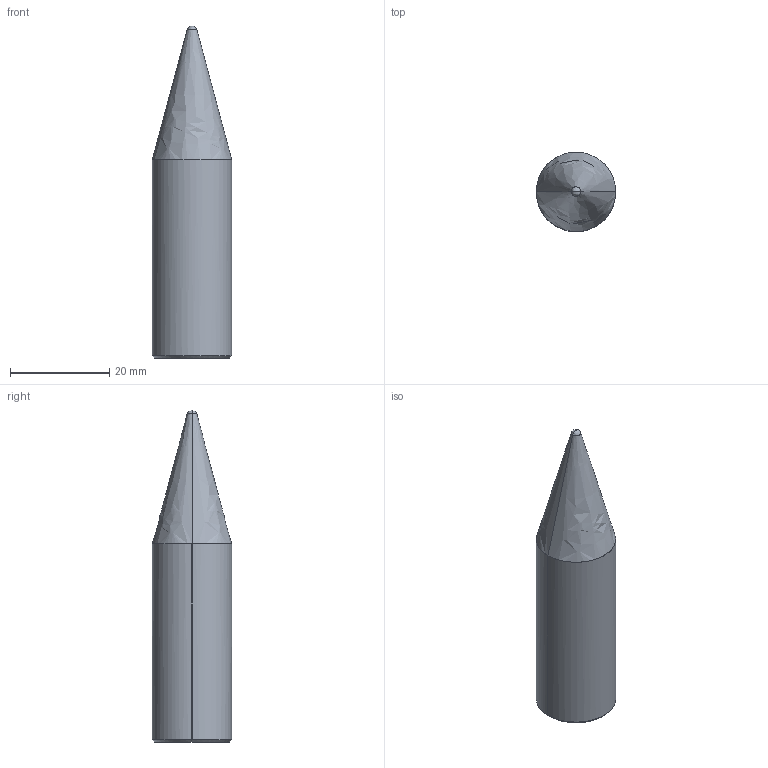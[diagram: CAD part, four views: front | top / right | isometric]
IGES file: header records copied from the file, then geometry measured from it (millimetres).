
Global section: file name: E:\UnigraphicsGraphicData\MISUMI_PRESS-PARTS\IGES\3d_snst16-b40_03114_r00.igs; native system: NX V5.0; preprocessor: UGS NX IGES V5.0; author: MISUMI; date: 20110105.162852; units: millimetre
Bounding box: 16 x 15.98 x 66.99 mm (x, y, z)
Surface area: 3193.6 mm2 (no closed solid volume)
Topology: 0 solids, 0 shells, 12 faces, 64 edges, 62 vertices
Faces by surface type: bspline 12
